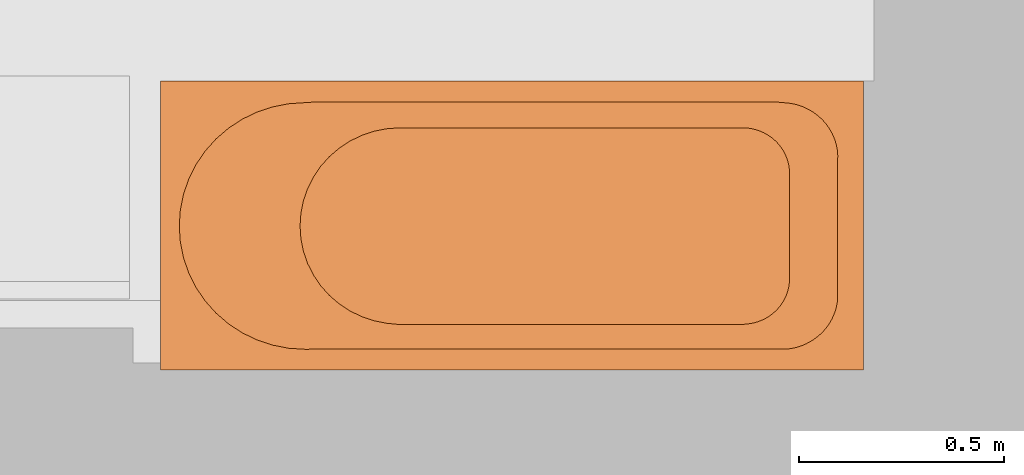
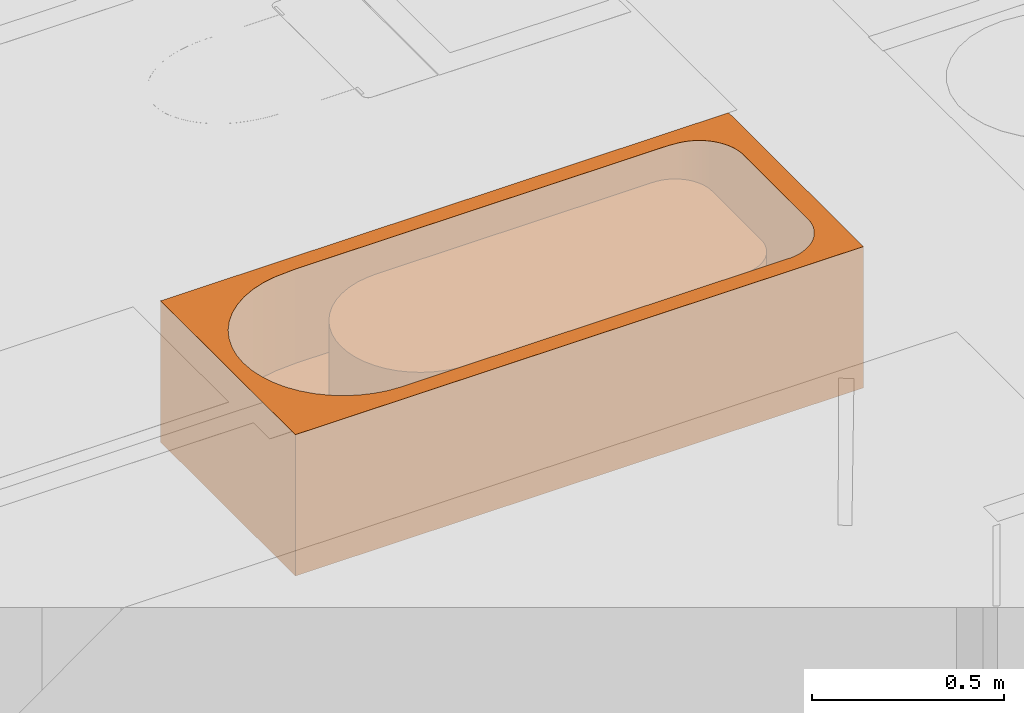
# Not in any storey, part 13 of 22: 1 proxy.
"""IFC4 model written with IfcOpenShell, lengths in metres."""

from ifc_helpers import new_model, si_unit, direction, origin_with_axes, place, context, subcontext, project, faceted_brep, element, save


model = new_model("IFC4")

# Units and contexts
model_context = context("Model", 3, precision=1e-05, world=origin_with_axes(), true_north=direction((1.0, 0.0)))
body_context = subcontext(model_context, "Body", "Model", "MODEL_VIEW")
ifc_project = project(units=[si_unit("LENGTHUNIT", "METRE"), si_unit("AREAUNIT", "SQUARE_METRE"), si_unit("VOLUMEUNIT", "CUBIC_METRE"), si_unit("MASSUNIT", "GRAM", prefix="KILO"), si_unit("TIMEUNIT", "SECOND"), si_unit("PLANEANGLEUNIT", "RADIAN"), si_unit("SOLIDANGLEUNIT", "STERADIAN")], contexts=[model_context])

# Proxy
proxy_placement = place(None, origin_with_axes())
element("IfcBuildingElementProxy", 1, at=proxy_placement, Name="Bloc Baignoire 170", PredefinedType="NOTDEFINED", context=body_context, shape_type="AdvancedBrep", body=[
    faceted_brep([(146.955326, 24.90858, 2.26), (147.787959, 24.908558, 2.26), (147.795382, 24.908352, 2.26), (147.802785, 24.907664, 2.26), (147.810135, 24.906499, 2.26), (147.817399, 24.90486, 2.26), (147.824545, 24.902756, 2.26), (147.831541, 24.900195, 2.26), (147.838356, 24.89719, 2.26), (147.84496, 24.893753, 2.26), (147.851323, 24.889899, 2.26), (147.857417, 24.885647, 2.26), (147.863215, 24.881014, 2.26), (147.868692, 24.876022, 2.26), (147.873822, 24.870692, 2.26), (147.878583, 24.865048, 2.26), (147.882955, 24.859116, 2.26), (147.886916, 24.852921, 2.26), (147.890451, 24.846491, 2.26), (147.893543, 24.839856, 2.26), (147.896178, 24.833043, 2.26), (147.898345, 24.826084, 2.26), (147.900034, 24.81901, 2.26), (147.901238, 24.811851, 2.26), (147.901951, 24.80464, 2.26), (147.90217, 24.797409, 2.26), (147.902169, 24.541906, 2.26), (147.90195, 24.534675, 2.26), (147.901236, 24.527464, 2.26), (147.900031, 24.520304, 2.26), (147.89834, 24.513227, 2.26), (147.89617, 24.506266, 2.26), (147.893532, 24.499451, 2.26), (147.890437, 24.492813, 2.26), (147.886899, 24.486381, 2.26), (147.882933, 24.480185, 2.26), (147.878558, 24.474251, 2.26), (147.873793, 24.468607, 2.26), (147.868659, 24.463277, 2.26), (147.863179, 24.458286, 2.26), (147.857379, 24.453655, 2.26), (147.851282, 24.449406, 2.26), (147.844918, 24.445558, 2.26), (147.838314, 24.442127, 2.26), (147.8315, 24.439129, 2.26), (147.824507, 24.436577, 2.26), (147.817365, 24.434484, 2.26), (147.810106, 24.432857, 2.26), (147.802764, 24.431705, 2.26), (147.79537, 24.431032, 2.26), (147.785672, 24.429646, 2.26), (146.956004, 24.429646, 2.26), (146.923471, 24.43283, 2.26), (146.892157, 24.438892, 2.26), (146.861921, 24.44891, 2.26), (146.833279, 24.462712, 2.26), (146.806724, 24.480061, 2.26), (146.782711, 24.500661, 2.26), (146.76165, 24.524158, 2.26), (146.743903, 24.550149, 2.26), (146.729775, 24.578189, 2.26), (146.719506, 24.607797, 2.26), (146.713274, 24.638467, 2.26), (146.711184, 24.669671, 2.26), (146.713274, 24.700877, 2.26), (146.719506, 24.731548, 2.26), (146.729775, 24.761159, 2.26), (146.743903, 24.789203, 2.26), (146.76165, 24.815198, 2.26), (146.782711, 24.838701, 2.26), (146.806724, 24.859307, 2.26), (146.833279, 24.876663, 2.26), (146.861921, 24.890473, 2.26), (146.892157, 24.900499, 2.26), (146.923471, 24.906569, 2.26), (146.37185, 25.022267, 2.31), (146.37185, 24.319589, 2.31), (148.08198, 24.319589, 2.31), (148.08198, 25.022267, 2.31), (147.869784, 24.971471, 2.31), (147.891611, 24.969431, 2.31), (147.900503, 24.968601, 2.31), (147.909328, 24.967198, 2.31), (147.918045, 24.96523, 2.31), (147.926619, 24.962706, 2.31), (147.935009, 24.959636, 2.31), (147.943181, 24.956033, 2.31), (147.951097, 24.951915, 2.31), (147.958723, 24.947298, 2.31), (147.966026, 24.942203, 2.31), (147.972973, 24.936653, 2.31), (147.979534, 24.930671, 2.31), (147.98568, 24.924285, 2.31), (147.991383, 24.917522, 2.31), (147.99662, 24.910412, 2.31), (148.001367, 24.902986, 2.31), (148.005602, 24.895277, 2.31), (148.009308, 24.887319, 2.31), (148.012468, 24.879146, 2.31), (148.015068, 24.870795, 2.31), (148.017097, 24.862303, 2.31), (148.018545, 24.853706, 2.31), (148.019408, 24.845043, 2.31), (148.019679, 24.836352, 2.31), (148.019414, 24.836352, 2.31), (148.019414, 24.494361, 2.31), (148.018561, 24.485702, 2.31), (148.017121, 24.477109, 2.31), (148.015099, 24.468618, 2.31), (148.012504, 24.460268, 2.31), (148.009348, 24.452095, 2.31), (148.005644, 24.444135, 2.31), (148.00141, 24.436424, 2.31), (147.996664, 24.428995, 2.31), (147.991426, 24.421882, 2.31), (147.985721, 24.415116, 2.31), (147.979572, 24.408726, 2.31), (147.973008, 24.402741, 2.31), (147.966057, 24.397188, 2.31), (147.95875, 24.39209, 2.31), (147.951119, 24.387471, 2.31), (147.943198, 24.383351, 2.31), (147.935022, 24.379747, 2.31), (147.926627, 24.376677, 2.31), (147.91805, 24.374153, 2.31), (147.90933, 24.372187, 2.31), (147.900504, 24.370787, 2.31), (147.893509, 24.370136, 2.31), (147.878798, 24.370385, 2.31), (146.768852, 24.370385, 2.31), (146.723952, 24.369689, 2.31), (146.683944, 24.372205, 2.31), (146.644615, 24.37982, 2.31), (146.606638, 24.392404, 2.31), (146.570665, 24.409739, 2.31), (146.537313, 24.43153, 2.31), (146.507152, 24.457403, 2.31), (146.480701, 24.486914, 2.31), (146.458411, 24.519558, 2.31), (146.440666, 24.554775, 2.31), (146.427768, 24.591962, 2.31), (146.419941, 24.630481, 2.31), (146.417316, 24.669672, 2.31), (146.419941, 24.708863, 2.31), (146.427768, 24.747383, 2.31), (146.440666, 24.784572, 2.31), (146.458411, 24.819792, 2.31), (146.480701, 24.852439, 2.31), (146.507152, 24.881954, 2.31), (146.537313, 24.907832, 2.31), (146.570665, 24.929628, 2.31), (146.606638, 24.946969, 2.31), (146.644615, 24.959558, 2.31), (146.683944, 24.967179, 2.31), (146.74786, 24.971471, 2.31), (146.37185, 24.319589, 1.86), (146.37185, 25.022267, 1.86), (148.08198, 25.022267, 1.86), (148.08198, 24.319589, 1.86), (147.891611, 24.969431, 1.86), (147.869784, 24.971471, 1.86), (146.74786, 24.971471, 1.86), (146.683944, 24.967179, 1.86), (146.644615, 24.959558, 1.86), (146.606638, 24.946969, 1.86), (146.570665, 24.929628, 1.86), (146.537313, 24.907832, 1.86), (146.507152, 24.881954, 1.86), (146.480701, 24.852439, 1.86), (146.458411, 24.819792, 1.86), (146.440666, 24.784572, 1.86), (146.427768, 24.747383, 1.86), (146.419941, 24.708863, 1.86), (146.417316, 24.669672, 1.86), (146.419941, 24.630481, 1.86), (146.427768, 24.591962, 1.86), (146.440666, 24.554775, 1.86), (146.458411, 24.519558, 1.86), (146.480701, 24.486914, 1.86), (146.507152, 24.457403, 1.86), (146.537313, 24.43153, 1.86), (146.570665, 24.409739, 1.86), (146.606638, 24.392404, 1.86), (146.644615, 24.37982, 1.86), (146.683944, 24.372205, 1.86), (146.723952, 24.369689, 1.86), (146.768852, 24.370385, 1.86), (147.878798, 24.370385, 1.86), (147.893509, 24.370136, 1.86), (147.900504, 24.370787, 1.86), (147.90933, 24.372187, 1.86), (147.91805, 24.374153, 1.86), (147.926627, 24.376677, 1.86), (147.935022, 24.379747, 1.86), (147.943198, 24.383351, 1.86), (147.951119, 24.387471, 1.86), (147.95875, 24.39209, 1.86), (147.966057, 24.397188, 1.86), (147.973008, 24.402741, 1.86), (147.979572, 24.408726, 1.86), (147.985721, 24.415116, 1.86), (147.991426, 24.421882, 1.86), (147.996664, 24.428995, 1.86), (148.00141, 24.436424, 1.86), (148.005644, 24.444135, 1.86), (148.009348, 24.452095, 1.86), (148.012504, 24.460268, 1.86), (148.015099, 24.468618, 1.86), (148.017121, 24.477109, 1.86), (148.018561, 24.485702, 1.86), (148.019414, 24.494361, 1.86), (148.019414, 24.836352, 1.86), (148.019679, 24.836352, 1.86), (148.019408, 24.845043, 1.86), (148.018545, 24.853706, 1.86), (148.017097, 24.862303, 1.86), (148.015068, 24.870795, 1.86), (148.012468, 24.879146, 1.86), (148.009308, 24.887319, 1.86), (148.005602, 24.895277, 1.86), (148.001367, 24.902986, 1.86), (147.99662, 24.910412, 1.86), (147.991383, 24.917522, 1.86), (147.98568, 24.924285, 1.86), (147.979534, 24.930671, 1.86), (147.972973, 24.936653, 1.86), (147.966026, 24.942203, 1.86), (147.958723, 24.947298, 1.86), (147.951097, 24.951915, 1.86), (147.943181, 24.956033, 1.86), (147.935009, 24.959636, 1.86), (147.926619, 24.962706, 1.86), (147.918045, 24.96523, 1.86), (147.909328, 24.967198, 1.86), (147.900503, 24.968601, 1.86), (147.891611, 24.969431, 2.01), (147.869784, 24.971471, 2.01), (146.74786, 24.971471, 2.01), (146.683944, 24.967179, 2.01), (146.644615, 24.959558, 2.01), (146.606638, 24.946969, 2.01), (146.570665, 24.929628, 2.01), (146.537313, 24.907832, 2.01), (146.507152, 24.881954, 2.01), (146.480701, 24.852439, 2.01), (146.458411, 24.819792, 2.01), (146.440666, 24.784572, 2.01), (146.427768, 24.747383, 2.01), (146.419941, 24.708863, 2.01), (146.417316, 24.669672, 2.01), (146.419941, 24.630481, 2.01), (146.427768, 24.591962, 2.01), (146.440666, 24.554775, 2.01), (146.458411, 24.519558, 2.01), (146.480701, 24.486914, 2.01), (146.507152, 24.457403, 2.01), (146.537313, 24.43153, 2.01), (146.570665, 24.409739, 2.01), (146.606638, 24.392404, 2.01), (146.644615, 24.37982, 2.01), (146.683944, 24.372205, 2.01), (146.723952, 24.369689, 2.01), (146.768852, 24.370385, 2.01), (147.878798, 24.370385, 2.01), (147.893509, 24.370136, 2.01), (147.900504, 24.370787, 2.01), (147.90933, 24.372187, 2.01), (147.91805, 24.374153, 2.01), (147.926627, 24.376677, 2.01), (147.935022, 24.379747, 2.01), (147.943198, 24.383351, 2.01), (147.951119, 24.387471, 2.01), (147.95875, 24.39209, 2.01), (147.966057, 24.397188, 2.01), (147.973008, 24.402741, 2.01), (147.979572, 24.408726, 2.01), (147.985721, 24.415116, 2.01), (147.991426, 24.421882, 2.01), (147.996664, 24.428995, 2.01), (148.00141, 24.436424, 2.01), (148.005644, 24.444135, 2.01), (148.009348, 24.452095, 2.01), (148.012504, 24.460268, 2.01), (148.015099, 24.468618, 2.01), (148.017121, 24.477109, 2.01), (148.018561, 24.485702, 2.01), (148.019414, 24.494361, 2.01), (148.019414, 24.836352, 2.01), (148.019679, 24.836352, 2.01), (148.019408, 24.845043, 2.01), (148.018545, 24.853706, 2.01), (148.017097, 24.862303, 2.01), (148.015068, 24.870795, 2.01), (148.012468, 24.879146, 2.01), (148.009308, 24.887319, 2.01), (148.005602, 24.895277, 2.01), (148.001367, 24.902986, 2.01), (147.99662, 24.910412, 2.01), (147.991383, 24.917522, 2.01), (147.98568, 24.924285, 2.01), (147.979534, 24.930671, 2.01), (147.972973, 24.936653, 2.01), (147.966026, 24.942203, 2.01), (147.958723, 24.947298, 2.01), (147.951097, 24.951915, 2.01), (147.943181, 24.956033, 2.01), (147.935009, 24.959636, 2.01), (147.926619, 24.962706, 2.01), (147.918045, 24.96523, 2.01), (147.909328, 24.967198, 2.01), (147.900503, 24.968601, 2.01), (146.76165, 24.524158, 2.01), (146.782711, 24.500661, 2.01), (146.806724, 24.480061, 2.01), (146.833279, 24.462712, 2.01), (146.861921, 24.44891, 2.01), (146.892157, 24.438892, 2.01), (146.923471, 24.43283, 2.01), (146.956004, 24.429646, 2.01), (147.785672, 24.429646, 2.01), (147.79537, 24.431032, 2.01), (147.802764, 24.431705, 2.01), (147.810106, 24.432857, 2.01), (147.817365, 24.434484, 2.01), (147.824507, 24.436577, 2.01), (147.8315, 24.439129, 2.01), (147.838314, 24.442127, 2.01), (147.844918, 24.445558, 2.01), (147.851282, 24.449406, 2.01), (147.857379, 24.453655, 2.01), (147.863179, 24.458286, 2.01), (147.868659, 24.463277, 2.01), (147.873793, 24.468607, 2.01), (147.878558, 24.474251, 2.01), (147.882933, 24.480185, 2.01), (147.886899, 24.486381, 2.01), (147.890437, 24.492813, 2.01), (147.893532, 24.499451, 2.01), (147.89617, 24.506266, 2.01), (147.89834, 24.513227, 2.01), (147.900031, 24.520304, 2.01), (147.901236, 24.527464, 2.01), (147.90195, 24.534675, 2.01), (147.902169, 24.541906, 2.01), (147.90217, 24.797409, 2.01), (147.901951, 24.80464, 2.01), (147.901238, 24.811851, 2.01), (147.900034, 24.81901, 2.01), (147.898345, 24.826084, 2.01), (147.896178, 24.833043, 2.01), (147.893543, 24.839856, 2.01), (147.890451, 24.846491, 2.01), (147.886916, 24.852921, 2.01), (147.882955, 24.859116, 2.01), (147.878583, 24.865048, 2.01), (147.873822, 24.870692, 2.01), (147.868692, 24.876022, 2.01), (147.863215, 24.881014, 2.01), (147.857417, 24.885647, 2.01), (147.851323, 24.889899, 2.01), (147.84496, 24.893753, 2.01), (147.838356, 24.89719, 2.01), (147.831541, 24.900195, 2.01), (147.824545, 24.902756, 2.01), (147.817399, 24.90486, 2.01), (147.810135, 24.906499, 2.01), (147.802785, 24.907664, 2.01), (147.795382, 24.908352, 2.01), (147.787959, 24.908558, 2.01), (146.955326, 24.90858, 2.01), (146.923471, 24.906569, 2.01), (146.892157, 24.900499, 2.01), (146.861921, 24.890473, 2.01), (146.833279, 24.876663, 2.01), (146.806724, 24.859307, 2.01), (146.782711, 24.838701, 2.01), (146.76165, 24.815198, 2.01), (146.743903, 24.789203, 2.01), (146.729775, 24.761159, 2.01), (146.719506, 24.731548, 2.01), (146.713274, 24.700877, 2.01), (146.711184, 24.669671, 2.01), (146.713274, 24.638467, 2.01), (146.719506, 24.607797, 2.01), (146.729775, 24.578189, 2.01), (146.743903, 24.550149, 2.01)], [[[0, 1, 2, 3, 4, 5, 6, 7, 8, 9, 10, 11, 12, 13, 14, 15, 16, 17, 18, 19, 20, 21, 22, 23, 24, 25, 26, 27, 28, 29, 30, 31, 32, 33, 34, 35, 36, 37, 38, 39, 40, 41, 42, 43, 44, 45, 46, 47, 48, 49, 50, 51, 52, 53, 54, 55, 56, 57, 58, 59, 60, 61, 62, 63, 64, 65, 66, 67, 68, 69, 70, 71, 72, 73, 74]], [[75, 76, 77, 78], [79, 80, 81, 82, 83, 84, 85, 86, 87, 88, 89, 90, 91, 92, 93, 94, 95, 96, 97, 98, 99, 100, 101, 102, 103, 104, 105, 106, 107, 108, 109, 110, 111, 112, 113, 114, 115, 116, 117, 118, 119, 120, 121, 122, 123, 124, 125, 126, 127, 128, 129, 130, 131, 132, 133, 134, 135, 136, 137, 138, 139, 140, 141, 142, 143, 144, 145, 146, 147, 148, 149, 150, 151, 152, 153, 154]], [[155, 156, 157, 158], [159, 160, 161, 162, 163, 164, 165, 166, 167, 168, 169, 170, 171, 172, 173, 174, 175, 176, 177, 178, 179, 180, 181, 182, 183, 184, 185, 186, 187, 188, 189, 190, 191, 192, 193, 194, 195, 196, 197, 198, 199, 200, 201, 202, 203, 204, 205, 206, 207, 208, 209, 210, 211, 212, 213, 214, 215, 216, 217, 218, 219, 220, 221, 222, 223, 224, 225, 226, 227, 228, 229, 230, 231, 232, 233, 234]], [[76, 75, 156, 155]], [[75, 78, 157, 156]], [[78, 77, 158, 157]], [[77, 76, 155, 158]], [[159, 235, 236, 160]], [[160, 236, 237, 161]], [[161, 237, 238, 162]], [[162, 238, 239, 163]], [[163, 239, 240, 164]], [[164, 240, 241, 165]], [[165, 241, 242, 166]], [[166, 242, 243, 167]], [[167, 243, 244, 168]], [[168, 244, 245, 169]], [[169, 245, 246, 170]], [[170, 246, 247, 171]], [[171, 247, 248, 172]], [[172, 248, 249, 173]], [[173, 249, 250, 174]], [[174, 250, 251, 175]], [[175, 251, 252, 176]], [[176, 252, 253, 177]], [[177, 253, 254, 178]], [[178, 254, 255, 179]], [[179, 255, 256, 180]], [[180, 256, 257, 181]], [[181, 257, 258, 182]], [[182, 258, 259, 183]], [[183, 259, 260, 184]], [[184, 260, 261, 185]], [[185, 261, 262, 186]], [[186, 262, 263, 187]], [[187, 263, 264, 188]], [[188, 264, 265, 189]], [[189, 265, 266, 190]], [[190, 266, 267, 191]], [[191, 267, 268, 192]], [[192, 268, 269, 193]], [[193, 269, 270, 194]], [[194, 270, 271, 195]], [[195, 271, 272, 196]], [[196, 272, 273, 197]], [[197, 273, 274, 198]], [[198, 274, 275, 199]], [[199, 275, 276, 200]], [[200, 276, 277, 201]], [[201, 277, 278, 202]], [[202, 278, 279, 203]], [[203, 279, 280, 204]], [[204, 280, 281, 205]], [[205, 281, 282, 206]], [[206, 282, 283, 207]], [[207, 283, 284, 208]], [[208, 284, 285, 209]], [[209, 285, 286, 210]], [[210, 286, 287, 211]], [[211, 287, 288, 212]], [[212, 288, 289, 213]], [[213, 289, 290, 214]], [[214, 290, 291, 215]], [[215, 291, 292, 216]], [[216, 292, 293, 217]], [[217, 293, 294, 218]], [[218, 294, 295, 219]], [[219, 295, 296, 220]], [[220, 296, 297, 221]], [[221, 297, 298, 222]], [[222, 298, 299, 223]], [[223, 299, 300, 224]], [[224, 300, 301, 225]], [[225, 301, 302, 226]], [[226, 302, 303, 227]], [[227, 303, 304, 228]], [[228, 304, 305, 229]], [[229, 305, 306, 230]], [[230, 306, 307, 231]], [[231, 307, 308, 232]], [[232, 308, 309, 233]], [[233, 309, 310, 234]], [[234, 310, 235, 159]], [[260, 259, 258, 257, 256, 255, 254, 253, 252, 251, 250, 249, 248, 247, 246, 245, 244, 243, 242, 241, 240, 239, 238, 237, 236, 235, 310, 309, 308, 307, 306, 305, 304, 303, 302, 301, 300, 299, 298, 297, 296, 295, 294, 293, 292, 291, 290, 289, 288, 287, 286, 285, 284, 283, 282, 281, 280, 279, 278, 277, 276, 275, 274, 273, 272, 271, 270, 269, 268, 267, 266, 265, 264, 263, 262, 261], [311, 312, 313, 314, 315, 316, 317, 318, 319, 320, 321, 322, 323, 324, 325, 326, 327, 328, 329, 330, 331, 332, 333, 334, 335, 336, 337, 338, 339, 340, 341, 342, 343, 344, 345, 346, 347, 348, 349, 350, 351, 352, 353, 354, 355, 356, 357, 358, 359, 360, 361, 362, 363, 364, 365, 366, 367, 368, 369, 370, 371, 372, 373, 374, 375, 376, 377, 378, 379, 380, 381, 382, 383, 384, 385]], [[132, 131, 260, 259]], [[133, 132, 259, 258]], [[134, 133, 258, 257]], [[135, 134, 257, 256]], [[136, 135, 256, 255]], [[137, 136, 255, 254]], [[138, 137, 254, 253]], [[139, 138, 253, 252]], [[140, 139, 252, 251]], [[141, 140, 251, 250]], [[142, 141, 250, 249]], [[143, 142, 249, 248]], [[144, 143, 248, 247]], [[145, 144, 247, 246]], [[146, 145, 246, 245]], [[147, 146, 245, 244]], [[148, 147, 244, 243]], [[149, 148, 243, 242]], [[150, 149, 242, 241]], [[151, 150, 241, 240]], [[152, 151, 240, 239]], [[153, 152, 239, 238]], [[154, 153, 238, 237]], [[79, 154, 237, 236]], [[80, 79, 236, 235]], [[81, 80, 235, 310]], [[82, 81, 310, 309]], [[83, 82, 309, 308]], [[84, 83, 308, 307]], [[85, 84, 307, 306]], [[86, 85, 306, 305]], [[87, 86, 305, 304]], [[88, 87, 304, 303]], [[89, 88, 303, 302]], [[90, 89, 302, 301]], [[91, 90, 301, 300]], [[92, 91, 300, 299]], [[93, 92, 299, 298]], [[94, 93, 298, 297]], [[95, 94, 297, 296]], [[96, 95, 296, 295]], [[97, 96, 295, 294]], [[98, 97, 294, 293]], [[99, 98, 293, 292]], [[100, 99, 292, 291]], [[101, 100, 291, 290]], [[102, 101, 290, 289]], [[103, 102, 289, 288]], [[104, 103, 288, 287]], [[105, 104, 287, 286]], [[106, 105, 286, 285]], [[107, 106, 285, 284]], [[108, 107, 284, 283]], [[109, 108, 283, 282]], [[110, 109, 282, 281]], [[111, 110, 281, 280]], [[112, 111, 280, 279]], [[113, 112, 279, 278]], [[114, 113, 278, 277]], [[115, 114, 277, 276]], [[116, 115, 276, 275]], [[117, 116, 275, 274]], [[118, 117, 274, 273]], [[119, 118, 273, 272]], [[120, 119, 272, 271]], [[121, 120, 271, 270]], [[122, 121, 270, 269]], [[123, 122, 269, 268]], [[124, 123, 268, 267]], [[125, 124, 267, 266]], [[126, 125, 266, 265]], [[127, 126, 265, 264]], [[128, 127, 264, 263]], [[129, 128, 263, 262]], [[130, 129, 262, 261]], [[131, 130, 261, 260]], [[58, 57, 312, 311]], [[57, 56, 313, 312]], [[56, 55, 314, 313]], [[55, 54, 315, 314]], [[54, 53, 316, 315]], [[53, 52, 317, 316]], [[52, 51, 318, 317]], [[51, 50, 319, 318]], [[50, 49, 320, 319]], [[49, 48, 321, 320]], [[48, 47, 322, 321]], [[47, 46, 323, 322]], [[46, 45, 324, 323]], [[45, 44, 325, 324]], [[44, 43, 326, 325]], [[43, 42, 327, 326]], [[42, 41, 328, 327]], [[41, 40, 329, 328]], [[40, 39, 330, 329]], [[39, 38, 331, 330]], [[38, 37, 332, 331]], [[37, 36, 333, 332]], [[36, 35, 334, 333]], [[35, 34, 335, 334]], [[34, 33, 336, 335]], [[33, 32, 337, 336]], [[32, 31, 338, 337]], [[31, 30, 339, 338]], [[30, 29, 340, 339]], [[29, 28, 341, 340]], [[28, 27, 342, 341]], [[27, 26, 343, 342]], [[26, 25, 344, 343]], [[25, 24, 345, 344]], [[24, 23, 346, 345]], [[23, 22, 347, 346]], [[22, 21, 348, 347]], [[21, 20, 349, 348]], [[20, 19, 350, 349]], [[19, 18, 351, 350]], [[18, 17, 352, 351]], [[17, 16, 353, 352]], [[16, 15, 354, 353]], [[15, 14, 355, 354]], [[14, 13, 356, 355]], [[13, 12, 357, 356]], [[12, 11, 358, 357]], [[11, 10, 359, 358]], [[10, 9, 360, 359]], [[9, 8, 361, 360]], [[8, 7, 362, 361]], [[7, 6, 363, 362]], [[6, 5, 364, 363]], [[5, 4, 365, 364]], [[4, 3, 366, 365]], [[3, 2, 367, 366]], [[2, 1, 368, 367]], [[1, 0, 369, 368]], [[0, 74, 370, 369]], [[74, 73, 371, 370]], [[73, 72, 372, 371]], [[72, 71, 373, 372]], [[71, 70, 374, 373]], [[70, 69, 375, 374]], [[69, 68, 376, 375]], [[68, 67, 377, 376]], [[67, 66, 378, 377]], [[66, 65, 379, 378]], [[65, 64, 380, 379]], [[64, 63, 381, 380]], [[63, 62, 382, 381]], [[62, 61, 383, 382]], [[61, 60, 384, 383]], [[60, 59, 385, 384]], [[59, 58, 311, 385]]]),
])

save(model, "model.ifc")
